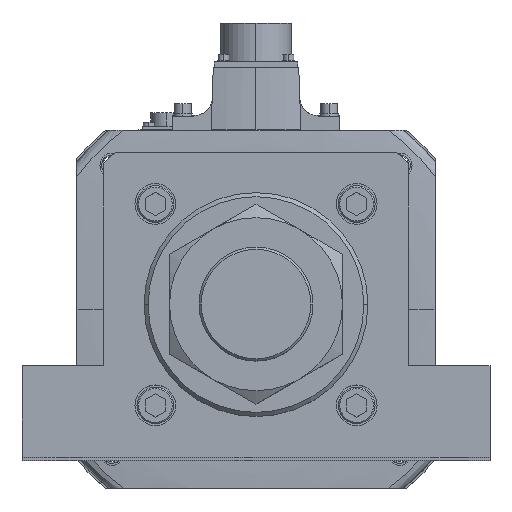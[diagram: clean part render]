
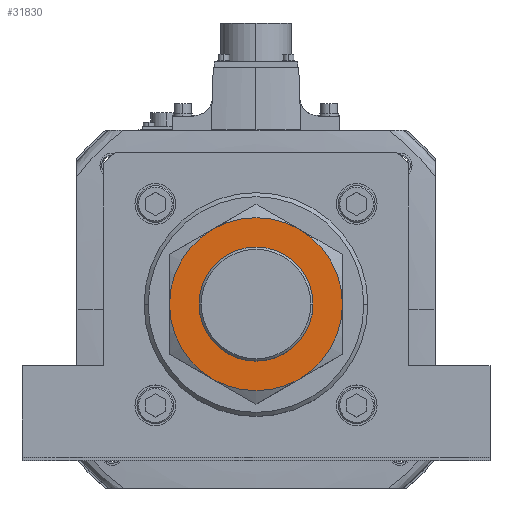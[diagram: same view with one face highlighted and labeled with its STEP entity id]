
A CAD part, top view. The second image highlights one B-rep face of the part: STEP entity #31830.
In plain terms, the highlighted planar face has unit normal (0, 0, 1).
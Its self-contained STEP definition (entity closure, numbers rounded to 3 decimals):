
#828 = DIRECTION ( 'NONE',  ( 1., 0., 0. ) ) ;
#1317 = ORIENTED_EDGE ( 'NONE', *, *, #7897, .F. ) ;
#2224 = VERTEX_POINT ( 'NONE', #16323 ) ;
#4637 = CARTESIAN_POINT ( 'NONE',  ( 0., 0., 34. ) ) ;
#4797 = DIRECTION ( 'NONE',  ( 1., 0., 0. ) ) ;
#5202 = DIRECTION ( 'NONE',  ( 0., 0., -1. ) ) ;
#5790 = EDGE_CURVE ( 'NONE', #20173, #28627, #15496, .T. ) ;
#6109 = ORIENTED_EDGE ( 'NONE', *, *, #6629, .F. ) ;
#6177 = FACE_BOUND ( 'NONE', #52339, .T. ) ;
#6483 = CIRCLE ( 'NONE', #17054, 28. ) ;
#6519 = DIRECTION ( 'NONE',  ( 0., 0., -1. ) ) ;
#6599 = CIRCLE ( 'NONE', #11074, 42.5 ) ;
#6629 = EDGE_CURVE ( 'NONE', #53225, #2224, #6599, .T. ) ;
#7289 = CARTESIAN_POINT ( 'NONE',  ( 0., 0., 34. ) ) ;
#7897 = EDGE_CURVE ( 'NONE', #13814, #14851, #6483, .T. ) ;
#7986 = AXIS2_PLACEMENT_3D ( 'NONE', #52538, #48507, #48324 ) ;
#8419 = AXIS2_PLACEMENT_3D ( 'NONE', #4637, #5202, #26863 ) ;
#8679 = ORIENTED_EDGE ( 'NONE', *, *, #27224, .F. ) ;
#9022 = CIRCLE ( 'NONE', #24693, 42.5 ) ;
#9227 = DIRECTION ( 'NONE',  ( 0., 0., -1. ) ) ;
#10842 = VERTEX_POINT ( 'NONE', #26381 ) ;
#10916 = DIRECTION ( 'NONE',  ( 1., 0., 0. ) ) ;
#11074 = AXIS2_PLACEMENT_3D ( 'NONE', #46643, #28764, #37563 ) ;
#11539 = ORIENTED_EDGE ( 'NONE', *, *, #14592, .F. ) ;
#12063 = CARTESIAN_POINT ( 'NONE',  ( 21.25, 36.806, 34. ) ) ;
#13011 = CARTESIAN_POINT ( 'NONE',  ( -28., 0., 34. ) ) ;
#13049 = FACE_OUTER_BOUND ( 'NONE', #19949, .T. ) ;
#13395 = DIRECTION ( 'NONE',  ( 1., 0., 0. ) ) ;
#13463 = AXIS2_PLACEMENT_3D ( 'NONE', #30482, #35642, #13395 ) ;
#13814 = VERTEX_POINT ( 'NONE', #45581 ) ;
#14424 = DIRECTION ( 'NONE',  ( 0., 0., -1. ) ) ;
#14592 = EDGE_CURVE ( 'NONE', #28627, #53225, #9022, .T. ) ;
#14851 = VERTEX_POINT ( 'NONE', #13011 ) ;
#15496 = CIRCLE ( 'NONE', #25036, 42.5 ) ;
#15726 = CARTESIAN_POINT ( 'NONE',  ( 0., 0., 34. ) ) ;
#16323 = CARTESIAN_POINT ( 'NONE',  ( -42.5, 0., 34. ) ) ;
#17054 = AXIS2_PLACEMENT_3D ( 'NONE', #48578, #52986, #4797 ) ;
#18285 = CARTESIAN_POINT ( 'NONE',  ( 0., 0., 34. ) ) ;
#19924 = AXIS2_PLACEMENT_3D ( 'NONE', #18285, #14424, #53616 ) ;
#19949 = EDGE_LOOP ( 'NONE', ( #29905, #45411, #41075, #36588, #6109, #11539 ) ) ;
#19989 = EDGE_CURVE ( 'NONE', #36060, #20173, #44848, .T. ) ;
#20173 = VERTEX_POINT ( 'NONE', #49831 ) ;
#24366 = CIRCLE ( 'NONE', #13463, 28. ) ;
#24693 = AXIS2_PLACEMENT_3D ( 'NONE', #7289, #6519, #10916 ) ;
#25036 = AXIS2_PLACEMENT_3D ( 'NONE', #35520, #9227, #828 ) ;
#26381 = CARTESIAN_POINT ( 'NONE',  ( -21.25, 36.806, 34. ) ) ;
#26863 = DIRECTION ( 'NONE',  ( 1., 0., 0. ) ) ;
#27224 = EDGE_CURVE ( 'NONE', #14851, #13814, #24366, .T. ) ;
#28627 = VERTEX_POINT ( 'NONE', #50783 ) ;
#28764 = DIRECTION ( 'NONE',  ( 0., 0., -1. ) ) ;
#29419 = CARTESIAN_POINT ( 'NONE',  ( -21.25, -36.806, 34. ) ) ;
#29905 = ORIENTED_EDGE ( 'NONE', *, *, #5790, .F. ) ;
#29936 = EDGE_CURVE ( 'NONE', #10842, #36060, #40719, .T. ) ;
#30482 = CARTESIAN_POINT ( 'NONE',  ( 0., 0., 34. ) ) ;
#31830 = ADVANCED_FACE ( 'NONE', ( #13049, #6177 ), #37017, .T. ) ;
#32287 = CIRCLE ( 'NONE', #19924, 42.5 ) ;
#33091 = EDGE_CURVE ( 'NONE', #2224, #10842, #32287, .T. ) ;
#33410 = DIRECTION ( 'NONE',  ( 1., 0., 0. ) ) ;
#35520 = CARTESIAN_POINT ( 'NONE',  ( 0., 0., 34. ) ) ;
#35642 = DIRECTION ( 'NONE',  ( 0., 0., 1. ) ) ;
#36060 = VERTEX_POINT ( 'NONE', #12063 ) ;
#36588 = ORIENTED_EDGE ( 'NONE', *, *, #33091, .F. ) ;
#37017 = PLANE ( 'NONE',  #50806 ) ;
#37563 = DIRECTION ( 'NONE',  ( 1., 0., 0. ) ) ;
#40719 = CIRCLE ( 'NONE', #8419, 42.5 ) ;
#41075 = ORIENTED_EDGE ( 'NONE', *, *, #29936, .F. ) ;
#42253 = DIRECTION ( 'NONE',  ( 0., 0., 1. ) ) ;
#44848 = CIRCLE ( 'NONE', #7986, 42.5 ) ;
#45411 = ORIENTED_EDGE ( 'NONE', *, *, #19989, .F. ) ;
#45581 = CARTESIAN_POINT ( 'NONE',  ( 28., 0., 34. ) ) ;
#46643 = CARTESIAN_POINT ( 'NONE',  ( 0., 0., 34. ) ) ;
#48324 = DIRECTION ( 'NONE',  ( 1., 0., 0. ) ) ;
#48507 = DIRECTION ( 'NONE',  ( 0., 0., -1. ) ) ;
#48578 = CARTESIAN_POINT ( 'NONE',  ( 0., 0., 34. ) ) ;
#49831 = CARTESIAN_POINT ( 'NONE',  ( 42.5, 0., 34. ) ) ;
#50783 = CARTESIAN_POINT ( 'NONE',  ( 21.25, -36.806, 34. ) ) ;
#50806 = AXIS2_PLACEMENT_3D ( 'NONE', #15726, #42253, #33410 ) ;
#52339 = EDGE_LOOP ( 'NONE', ( #8679, #1317 ) ) ;
#52538 = CARTESIAN_POINT ( 'NONE',  ( 0., 0., 34. ) ) ;
#52986 = DIRECTION ( 'NONE',  ( 0., 0., 1. ) ) ;
#53225 = VERTEX_POINT ( 'NONE', #29419 ) ;
#53616 = DIRECTION ( 'NONE',  ( -1., 0., 0. ) ) ;
